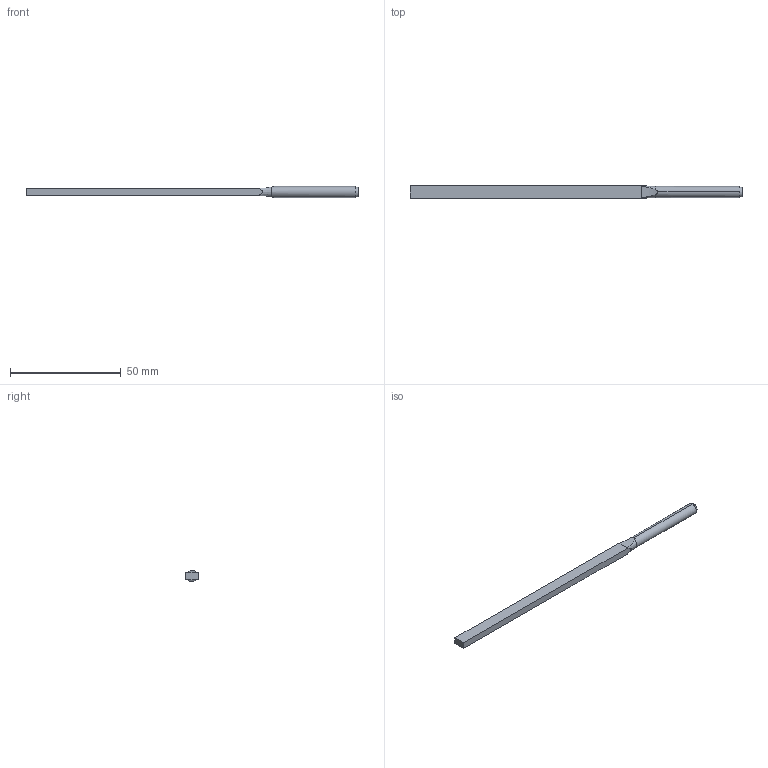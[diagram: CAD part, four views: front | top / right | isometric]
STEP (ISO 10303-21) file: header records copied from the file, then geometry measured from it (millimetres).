
FILE_DESCRIPTION (( 'STEP AP203' ), '1' );
FILE_NAME ('チタンスーパーソー角.STEP', '2026-07-03T06:27:17', ( '' ), ( '' ), 'SwSTEP 2.0', 'SolidWorks 2016', '' );
FILE_SCHEMA (( 'CONFIG_CONTROL_DESIGN' ));
Length unit declared in the file: millimetre
Products named in the file (1): チタンスーパーソー角
Bounding box: 150 x 5.5 x 5 mm (x, y, z)
Volume: 2715.1 mm3; surface area: 2564.6 mm2
Topology: 1 solids, 1 shells, 18 faces, 46 edges, 30 vertices
Faces by surface type: plane 6, cylinder 4, torus 4, bspline 2, cone 2
Entity records: 733 total; most frequent: CARTESIAN_POINT 259, ORIENTED_EDGE 92, DIRECTION 68, EDGE_CURVE 46, VERTEX_POINT 30, AXIS2_PLACEMENT_3D 27, B_SPLINE_CURVE_WITH_KNOTS 22, ADVANCED_FACE 18
